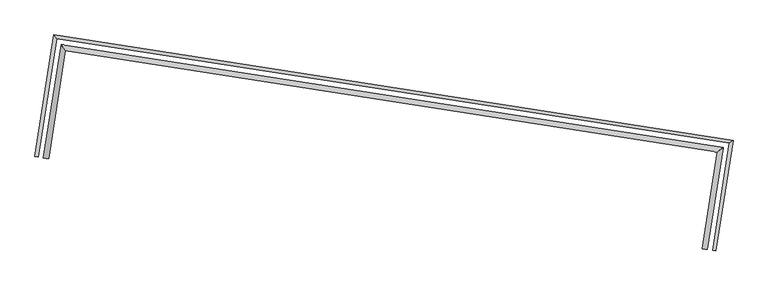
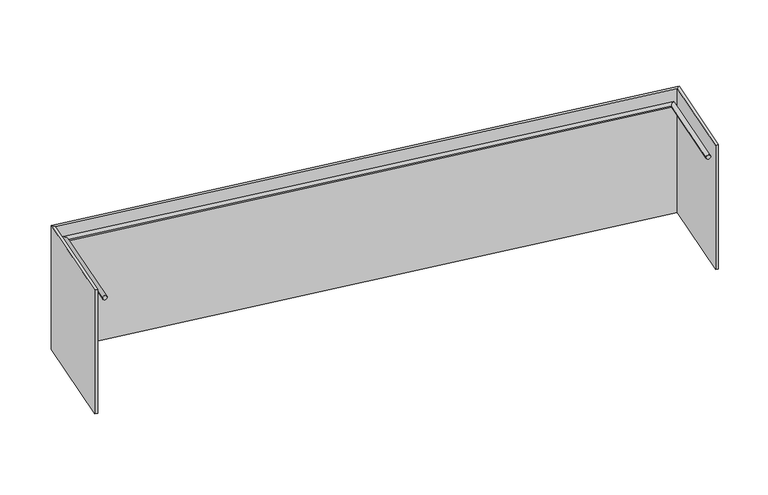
"""IFC4 building model written with IfcOpenShell, lengths in millimetres: railing geometry, Panel de vidrio - balcón."""

from ifc_helpers import new_model, si_unit, frame, origin, place, context, project, spatial, circle_curve, ellipse_curve, faceted_brep, source, transform, mapped, element, save
from ifc_brep_helpers import plane_surface, cylinder_surface, advanced_brep


def railing_fda1aada(model_context):
    return source(origin(), model_context, "Body", "SolidModel", [
        faceted_brep([(-37293.4037552, -72586.0496219, 13745.385397), (-37318.1054879, -72582.1993749, 13745.385397), (-37318.1054879, -72582.1993749, 12545.385397), (-37293.4037552, -72586.0496219, 12545.385397), (-37159.8916068, -71729.4860256, 13745.385397), (-37188.4435864, -71750.3375112, 13745.385397), (-37188.4435864, -71750.3375112, 12545.385397), (-37159.8916068, -71729.4860256, 12545.385397), (-42430.0683342, -70908.0261391, 13745.385397), (-42409.2168485, -70936.5781188, 13745.385397), (-42409.2168485, -70936.5781188, 12545.385397), (-42430.0683342, -70908.0261391, 12545.385397), (-42577.4413737, -71853.5159854, 13745.385397), (-42577.4413737, -71853.5159854, 12545.385397), (-42552.739641, -71857.3662324, 12545.385397), (-42552.739641, -71857.3662324, 13745.385397)], [[[0, 1, 2, 3]], [[1, 0, 4, 5]], [[2, 1, 5, 6]], [[3, 2, 6, 7]], [[0, 3, 7, 4]], [[5, 4, 8, 9]], [[6, 5, 9, 10]], [[7, 6, 10, 11]], [[4, 7, 11, 8]], [[12, 13, 14, 15]], [[9, 8, 12, 15]], [[10, 9, 15, 14]], [[11, 10, 14, 13]], [[8, 11, 13, 12]]]),
        advanced_brep(
        [(-37399.0346921, -72569.5849795, 13650.0), (-37359.5119198, -72575.7453746, 13650.0), (-37281.987186, -71818.6523197, 13650.0), (-37236.3040186, -71785.2899427, 13650.0), (-42340.9020398, -71030.1217188, 13650.0), (-42374.2644169, -70984.4385512, 13650.0), (-42471.8104368, -71869.9806278, 13650.0), (-42511.3332091, -71863.8202327, 13650.0)],
        [
            (0, 1, circle_curve(frame((-37379.2733059, -72572.6651771, 13650.0), z_axis=(-0.15400987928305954, -0.9880693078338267, 0.0), x_axis=(0.9880693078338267, -0.15400987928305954, 0.0)), 20.0)),
            (1, 0, circle_curve(frame((-37379.2733059, -72572.6651771, 13650.0), z_axis=(-0.15400987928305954, -0.9880693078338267, 0.0), x_axis=(0.9880693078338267, -0.15400987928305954, 0.0)), 20.0)),
            (0, 2),
            (2, 3, ellipse_curve(frame((-37259.1456023, -71801.9711312, 13650.0), z_axis=(0.5897690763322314, -0.8075719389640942, 0.0), x_axis=(-0.8075719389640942, -0.5897690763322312, 0.0)), 28.2842712, 20.0)),
            (3, 1),
            (3, 2, ellipse_curve(frame((-37259.1456023, -71801.9711312, 13650.0), z_axis=(0.5897690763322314, -0.8075719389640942, 0.0), x_axis=(-0.8075719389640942, -0.5897690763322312, 0.0)), 28.2842712, 20.0)),
            (2, 4),
            (4, 5, ellipse_curve(frame((-42357.5832284, -71007.280135, 13650.0), z_axis=(0.8075719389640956, 0.5897690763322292, 0.0), x_axis=(0.5897690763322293, -0.8075719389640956, 0.0)), 28.2842713, 20.0)),
            (5, 3),
            (5, 4, ellipse_curve(frame((-42357.5832284, -71007.280135, 13650.0), z_axis=(0.8075719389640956, 0.5897690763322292, 0.0), x_axis=(0.5897690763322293, -0.8075719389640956, 0.0)), 28.2842713, 20.0)),
            (6, 7, circle_curve(frame((-42491.5718229, -71866.9004302, 13650.0), z_axis=(-0.15400987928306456, -0.988069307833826, 0.0), x_axis=(-0.988069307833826, 0.15400987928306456, 0.0)), 20.0)),
            (7, 6, circle_curve(frame((-42491.5718229, -71866.9004302, 13650.0), z_axis=(-0.15400987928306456, -0.988069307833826, 0.0), x_axis=(-0.988069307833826, 0.15400987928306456, 0.0)), 20.0)),
            (4, 6),
            (7, 5),
        ],
        [
            plane_surface(frame((-37379.2733059, -72572.6651771, 13650.0), z_axis=(-0.15400987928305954, -0.9880693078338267, 0.0), x_axis=(0.9880693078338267, -0.15400987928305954, 0.0))),
            cylinder_surface(frame((-37379.2733059, -72572.6651771, 13650.0), z_axis=(-0.15400987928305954, -0.9880693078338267, 0.0), x_axis=(0.9880693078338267, -0.15400987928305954, 0.0)), 20.0),
            cylinder_surface(frame((-37259.1456023, -71801.9711312, 13650.0), z_axis=(0.9880693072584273, -0.1540098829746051, 0.0), x_axis=(0.1540098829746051, 0.9880693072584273, 0.0)), 20.0),
            plane_surface(frame((-42491.5718229, -71866.9004302, 13650.0), z_axis=(-0.15400987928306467, -0.988069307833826, 0.0), x_axis=(0.988069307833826, -0.15400987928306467, 0.0))),
            cylinder_surface(frame((-42357.5832284, -71007.280135, 13650.0), z_axis=(0.15400987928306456, 0.988069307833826, 0.0), x_axis=(-0.988069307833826, 0.15400987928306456, 0.0)), 20.0),
        ],
        [
            (0, [[1, 2]]),
            (1, [[-1, 3, 4, 5]]),
            (1, [[-2, -5, 6, -3]]),
            (2, [[-4, 7, 8, 9]]),
            (2, [[-6, -9, 10, -7]]),
            (3, [[11, 12]]),
            (4, [[-8, 13, -12, 14]]),
            (4, [[-10, -14, -11, -13]]),
        ],
    ),
    ])


if __name__ == "__main__":
    model = new_model("IFC4")
    model_context = context("Model", 3, world=origin())
    ifc_project = project(units=[si_unit("LENGTHUNIT", "METRE", prefix="MILLI")], contexts=[model_context])
    site = spatial("IfcSite", under=ifc_project)
    building = spatial("IfcBuilding", under=site)
    placement = place(None, origin())
    railing_shape = railing_fda1aada(model_context)
    element("IfcRailing", 1, ObjectType="Panel de vidrio - balcón", at=placement, inside=building, context=model_context, shape_type="MappedRepresentation", body=[
        mapped(railing_shape, transform((0.0, 0.0, 0.0), x_axis=(1.0, 0.0, 0.0), y_axis=(0.0, 1.0, 0.0), z_axis=(0.0, 0.0, 1.0))),
    ])
    save(model, "model.ifc")
